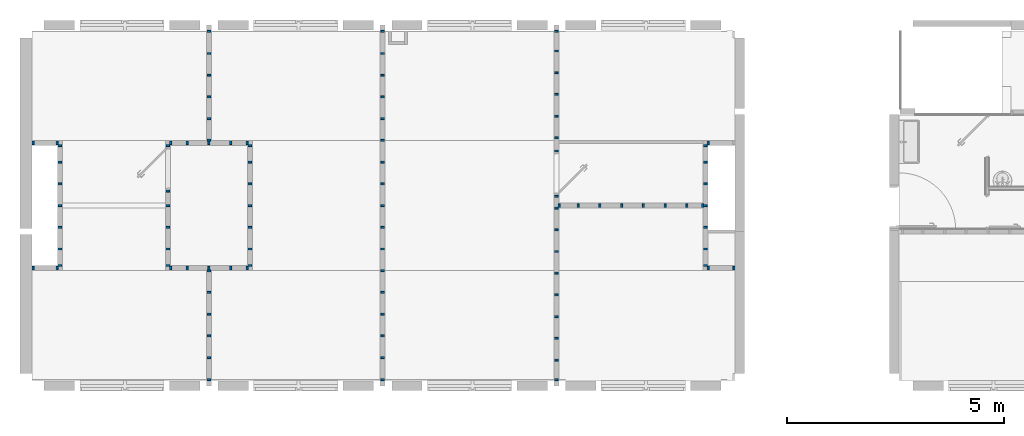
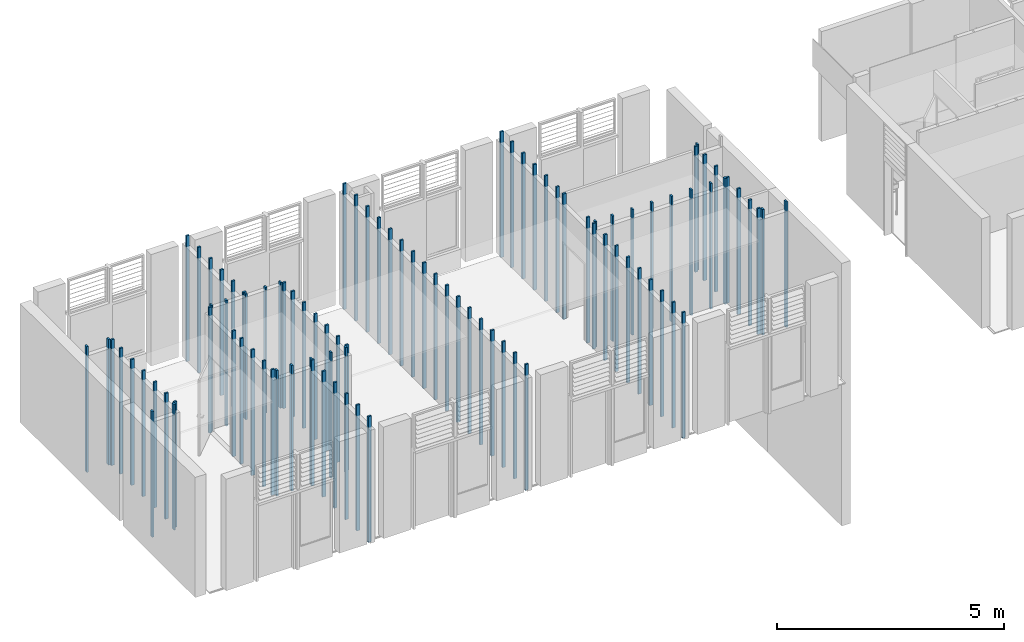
# One storey, part 1 of 20: 98 columns.
"""IFC2X3 building model written with IfcOpenShell, lengths in metres."""

from ifc_helpers import new_model, entity, si_unit, converted_unit, derived_unit, direction, frame, origin, origin_2d_with_axis, place, context, subcontext, project, spatial, rectangle, extrude, source, transform, mapped, material, type_object, type_shapes, element, save


model = new_model("IFC2X3")

# Units and contexts
model_context = context("Model", 3, precision=1e-05, world=origin(), true_north=direction((6.12303176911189e-17, 1.0)))
body_context = subcontext(model_context, "Body", "Model", "MODEL_VIEW")
ifc_project = project(units=[si_unit("LENGTHUNIT", "METRE"), si_unit("AREAUNIT", "SQUARE_METRE"), si_unit("VOLUMEUNIT", "CUBIC_METRE"), converted_unit("PLANEANGLEUNIT", "DEGREE", entity("IfcRatioMeasure", 0.0174532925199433), si_unit("PLANEANGLEUNIT", "RADIAN"), dimensions=[0, 0, 0, 0, 0, 0, 0]), si_unit("MASSUNIT", "GRAM", prefix="KILO"), derived_unit("MASSDENSITYUNIT", [(si_unit("MASSUNIT", "GRAM", prefix="KILO"), 1), (si_unit("LENGTHUNIT", "METRE"), -3)]), si_unit("TIMEUNIT", "SECOND"), si_unit("FREQUENCYUNIT", "HERTZ"), si_unit("THERMODYNAMICTEMPERATUREUNIT", "DEGREE_CELSIUS"), derived_unit("THERMALTRANSMITTANCEUNIT", [(si_unit("MASSUNIT", "GRAM", prefix="KILO"), 1), (si_unit("THERMODYNAMICTEMPERATUREUNIT", "KELVIN"), -1), (si_unit("TIMEUNIT", "SECOND"), -3)]), derived_unit("VOLUMETRICFLOWRATEUNIT", [(si_unit("LENGTHUNIT", "METRE"), 3), (si_unit("TIMEUNIT", "SECOND"), -1)]), si_unit("ELECTRICCURRENTUNIT", "AMPERE"), si_unit("ELECTRICVOLTAGEUNIT", "VOLT"), si_unit("POWERUNIT", "WATT"), si_unit("FORCEUNIT", "NEWTON", prefix="KILO"), si_unit("ILLUMINANCEUNIT", "LUX"), si_unit("LUMINOUSFLUXUNIT", "LUMEN"), si_unit("LUMINOUSINTENSITYUNIT", "CANDELA"), derived_unit("USERDEFINED", [(si_unit("MASSUNIT", "GRAM", prefix="KILO"), -1), (si_unit("LENGTHUNIT", "METRE"), -2), (si_unit("TIMEUNIT", "SECOND"), 3), (si_unit("LUMINOUSFLUXUNIT", "LUMEN"), 1)]), derived_unit("LINEARVELOCITYUNIT", [(si_unit("LENGTHUNIT", "METRE"), 1), (si_unit("TIMEUNIT", "SECOND"), -1)]), si_unit("PRESSUREUNIT", "PASCAL"), derived_unit("USERDEFINED", [(si_unit("LENGTHUNIT", "METRE"), -2), (si_unit("MASSUNIT", "GRAM", prefix="KILO"), 1), (si_unit("TIMEUNIT", "SECOND"), -2)])], contexts=[model_context])

# Site, building, storey
site_placement = place(None, origin())
site = spatial("IfcSite", under=ifc_project, at=site_placement, Name="Surface", CompositionType="ELEMENT")
building_placement = place(site_placement, origin())
building = spatial("IfcBuilding", under=site, at=building_placement, Name="ExPREF", CompositionType="ELEMENT")
storey_placement = place(building_placement, frame((0.0, 0.0, 4.27)))
storey = spatial("IfcBuildingStorey", under=building, at=storey_placement, Name="R+1", CompositionType="ELEMENT", Elevation=4.27)

# Columns
ifc_material_1 = material(Name="AA-bois poutres")
column_type_1 = type_object("IfcColumnType", Name="HEA160", PredefinedType="COLUMN")
shared_shape_1 = source(origin(), body_context, "Body", "SweptSolid", [
    extrude(rectangle(XDim=0.08, YDim=0.0449999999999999, at=origin_2d_with_axis()), frame((0.0, 0.0, 4.215), z_axis=(0.0, 0.0, 1.0), x_axis=(0.0, -1.0, 0.0)), (0.0, 0.0, 1.0), 3.385),
])
type_shapes(column_type_1, [shared_shape_1])
for number, where, z_axis, x_axis, name in (
    (1, (40.9197436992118, -189.20806962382, -4.27), (0.0, 0.0, 1.0), (0.0, 1.0, 0.0), "poteau bois 8x4.5 cm:HEA160"),
    (2, (40.9197436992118, -188.70806962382, -4.27), (0.0, 0.0, 1.0), (0.0, 1.0, 0.0), "poteau bois 8x4.5 cm:HEA160"),
    (3, (40.9197436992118, -188.20806962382, -4.27), (0.0, 0.0, 1.0), (0.0, 1.0, 0.0), "poteau bois 8x4.5 cm:HEA160"),
    (4, (40.9197436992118, -187.828569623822, -4.27), (0.0, 0.0, 1.0), (0.0, 1.0, 0.0), "poteau bois 8x4.5 cm:HEA160"),
):
    element("IfcColumn", number, at=place(storey_placement, frame(where, z_axis=z_axis, x_axis=x_axis)), inside=storey, type_object=column_type_1, material=ifc_material_1, Name=name, ObjectType="HEA160", context=body_context, shape_type="MappedRepresentation", body=[
        mapped(shared_shape_1, transform((0.0, 0.0, 0.0), scale=1.0)),
    ])
column_placement = place(storey_placement, frame((40.9822436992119, -187.766069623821, -4.27)))
element("IfcColumn", 5, at=column_placement, inside=storey, type_object=column_type_1, material=ifc_material_1, Name="poteau bois 8x4.5 cm:HEA160", ObjectType="HEA160", context=body_context, shape_type="MappedRepresentation", body=[
    mapped(shared_shape_1, transform((0.0, 0.0, 0.0), scale=1.0)),
])
for number, where, z_axis, x_axis, name in (
    (6, (26.0597436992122, -189.708069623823, -4.27), (0.0, 0.0, 1.0), (0.0, -1.0, 0.0), "poteau bois 8x4.5 cm:HEA160"),
    (7, (26.0597436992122, -190.208069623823, -4.27), (0.0, 0.0, 1.0), (0.0, -1.0, 0.0), "poteau bois 8x4.5 cm:HEA160"),
    (8, (26.0597436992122, -190.587569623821, -4.27), (0.0, 0.0, 1.0), (0.0, -1.0, 0.0), "poteau bois 8x4.5 cm:HEA160"),
    (9, (25.442243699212, -190.650069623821, -4.27), (0.0, 0.0, 1.0), (-1.0, 0.0, 0.0), "poteau bois 8x4.5 cm:HEA160"),
    (10, (25.9972436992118, -190.650069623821, -4.27), (0.0, 0.0, 1.0), (-1.0, 0.0, 0.0), "poteau bois 8x4.5 cm:HEA160"),
):
    element("IfcColumn", number, at=place(storey_placement, frame(where, z_axis=z_axis, x_axis=x_axis)), inside=storey, type_object=column_type_1, material=ifc_material_1, Name=name, ObjectType="HEA160", context=body_context, shape_type="MappedRepresentation", body=[
        mapped(shared_shape_1, transform((0.0, 0.0, 0.0), scale=1.0)),
    ])
column_type_2 = type_object("IfcColumnType", Name="HEA160", PredefinedType="COLUMN")
shared_shape_2 = source(origin(), body_context, "Body", "SweptSolid", [
    extrude(rectangle(XDim=0.08, YDim=0.0449999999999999, at=origin_2d_with_axis()), frame((0.0, 0.0, 4.215), z_axis=(0.0, 0.0, 1.0), x_axis=(0.0, -1.0, 0.0)), (0.0, 0.0, 1.0), 3.385),
])
type_shapes(column_type_2, [shared_shape_2])
for number, where, z_axis, x_axis, name in (
    (11, (40.9197436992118, -189.708069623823, -4.27), (0.0, 0.0, 1.0), (0.0, -1.0, 0.0), "poteau bois 8x4.5 cm:HEA160"),
    (12, (40.9197436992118, -190.208069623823, -4.27), (0.0, 0.0, 1.0), (0.0, -1.0, 0.0), "poteau bois 8x4.5 cm:HEA160"),
    (13, (40.9197436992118, -190.587569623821, -4.27), (0.0, 0.0, 1.0), (0.0, -1.0, 0.0), "poteau bois 8x4.5 cm:HEA160"),
):
    element("IfcColumn", number, at=place(storey_placement, frame(where, z_axis=z_axis, x_axis=x_axis)), inside=storey, type_object=column_type_2, material=ifc_material_1, Name=name, ObjectType="HEA160", context=body_context, shape_type="MappedRepresentation", body=[
        mapped(shared_shape_2, transform((0.0, 0.0, 0.0), scale=1.0)),
    ])
for number, where, name in (
    (14, (41.5772436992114, -190.650069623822, -4.27), "poteau bois 8x4.5 cm:HEA160"),
    (15, (40.9822436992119, -190.650069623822, -4.27), "poteau bois 8x4.5 cm:HEA160"),
):
    element("IfcColumn", number, at=place(storey_placement, frame(where)), inside=storey, type_object=column_type_2, material=ifc_material_1, Name=name, ObjectType="HEA160", context=body_context, shape_type="MappedRepresentation", body=[
        mapped(shared_shape_2, transform((0.0, 0.0, 0.0), scale=1.0)),
    ])
for number, where, z_axis, x_axis, name in (
    (16, (26.0597436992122, -189.20806962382, -4.27), (0.0, 0.0, 1.0), (0.0, 1.0, 0.0), "poteau bois 8x4.5 cm:HEA160"),
    (17, (26.0597436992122, -188.70806962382, -4.27), (0.0, 0.0, 1.0), (0.0, 1.0, 0.0), "poteau bois 8x4.5 cm:HEA160"),
    (18, (26.0597436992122, -188.20806962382, -4.27), (0.0, 0.0, 1.0), (0.0, 1.0, 0.0), "poteau bois 8x4.5 cm:HEA160"),
    (19, (26.0597436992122, -187.828569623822, -4.27), (0.0, 0.0, 1.0), (0.0, 1.0, 0.0), "poteau bois 8x4.5 cm:HEA160"),
    (20, (25.4422436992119, -187.766069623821, -4.27), (0.0, 0.0, 1.0), (-1.0, 0.0, 0.0), "poteau bois 8x4.5 cm:HEA160"),
    (21, (25.9972436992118, -187.766069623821, -4.27), (0.0, 0.0, 1.0), (-1.0, 0.0, 0.0), "poteau bois 8x4.5 cm:HEA160"),
):
    element("IfcColumn", number, at=place(storey_placement, frame(where, z_axis=z_axis, x_axis=x_axis)), inside=storey, type_object=column_type_2, material=ifc_material_1, Name=name, ObjectType="HEA160", context=body_context, shape_type="MappedRepresentation", body=[
        mapped(shared_shape_2, transform((0.0, 0.0, 0.0), scale=1.0)),
    ])
ifc_material_2 = material(Name="AA-bois tasseau cloison")
column_type_3 = type_object("IfcColumnType", Name="HEA160", PredefinedType="COLUMN")
shared_shape_3 = source(origin(), body_context, "Body", "SweptSolid", [
    extrude(rectangle(XDim=0.08, YDim=0.0449999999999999, at=origin_2d_with_axis()), frame((0.0, 0.0, 4.215), z_axis=(0.0, 0.0, 1.0), x_axis=(0.0, -1.0, 0.0)), (0.0, 0.0, 1.0), 3.385),
])
type_shapes(column_type_3, [shared_shape_3])
for number, where, z_axis, x_axis, name in (
    (22, (37.4897436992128, -185.19898794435, -4.27), (0.0, 0.0, 1.0), (0.0, -1.0, 0.0), "poteau bois 8x4.5 cm:HEA160"),
    (23, (37.4897436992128, -185.650569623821, -4.27), (0.0, 0.0, 1.0), (0.0, -1.0, 0.0), "poteau bois 8x4.5 cm:HEA160"),
    (24, (37.4897436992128, -186.150569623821, -4.27), (0.0, 0.0, 1.0), (0.0, -1.0, 0.0), "poteau bois 8x4.5 cm:HEA160"),
    (25, (37.4897436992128, -186.650569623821, -4.27), (0.0, 0.0, 1.0), (0.0, -1.0, 0.0), "poteau bois 8x4.5 cm:HEA160"),
    (26, (37.4897436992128, -187.150569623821, -4.27), (0.0, 0.0, 1.0), (0.0, -1.0, 0.0), "poteau bois 8x4.5 cm:HEA160"),
    (27, (37.4897436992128, -187.650569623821, -4.27), (0.0, 0.0, 1.0), (0.0, -1.0, 0.0), "poteau bois 8x4.5 cm:HEA160"),
    (28, (37.4897436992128, -187.952089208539, -4.27), (0.0, 0.0, 1.0), (0.0, -1.0, 0.0), "poteau bois 8x4.5 cm:HEA160"),
    (29, (33.4897436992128, -185.19898794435, -4.27), (0.0, 0.0, 1.0), (0.0, -1.0, 0.0), "poteau bois 8x4.5 cm:HEA160"),
    (30, (33.4897436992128, -185.708069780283, -4.27), (0.0, 0.0, 1.0), (0.0, -1.0, 0.0), "poteau bois 8x4.5 cm:HEA160"),
    (31, (33.4897436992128, -186.208069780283, -4.27), (0.0, 0.0, 1.0), (0.0, -1.0, 0.0), "poteau bois 8x4.5 cm:HEA160"),
    (32, (33.4897436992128, -186.708069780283, -4.27), (0.0, 0.0, 1.0), (0.0, -1.0, 0.0), "poteau bois 8x4.5 cm:HEA160"),
    (33, (33.4897436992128, -187.208069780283, -4.27), (0.0, 0.0, 1.0), (0.0, -1.0, 0.0), "poteau bois 8x4.5 cm:HEA160"),
    (34, (33.4897436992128, -187.708069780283, -4.27), (0.0, 0.0, 1.0), (0.0, -1.0, 0.0), "poteau bois 8x4.5 cm:HEA160"),
    (35, (33.4897436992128, -188.208069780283, -4.27), (0.0, 0.0, 1.0), (0.0, -1.0, 0.0), "poteau bois 8x4.5 cm:HEA160"),
    (36, (33.4897436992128, -188.708069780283, -4.27), (0.0, 0.0, 1.0), (0.0, -1.0, 0.0), "poteau bois 8x4.5 cm:HEA160"),
    (37, (33.4897436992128, -189.208069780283, -4.27), (0.0, 0.0, 1.0), (0.0, -1.0, 0.0), "poteau bois 8x4.5 cm:HEA160"),
    (38, (29.4897436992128, -185.19898794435, -4.27), (0.0, 0.0, 1.0), (0.0, -1.0, 0.0), "poteau bois 8x4.5 cm:HEA160"),
    (39, (29.4897436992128, -185.708069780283, -4.27), (0.0, 0.0, 1.0), (0.0, -1.0, 0.0), "poteau bois 8x4.5 cm:HEA160"),
    (40, (29.4897436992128, -186.208069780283, -4.27), (0.0, 0.0, 1.0), (0.0, -1.0, 0.0), "poteau bois 8x4.5 cm:HEA160"),
    (41, (29.4897436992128, -186.708069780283, -4.27), (0.0, 0.0, 1.0), (0.0, -1.0, 0.0), "poteau bois 8x4.5 cm:HEA160"),
    (42, (29.4897436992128, -187.208069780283, -4.27), (0.0, 0.0, 1.0), (0.0, -1.0, 0.0), "poteau bois 8x4.5 cm:HEA160"),
    (43, (29.4897436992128, -187.70356962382, -4.27), (0.0, 0.0, 1.0), (0.0, -1.0, 0.0), "poteau bois 8x4.5 cm:HEA160"),
    (44, (30.4317436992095, -188.208069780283, -4.27), (0.0, 0.0, 1.0), (0.0, -1.0, 0.0), "poteau bois 8x4.5 cm:HEA160"),
    (45, (30.4317436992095, -188.708069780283, -4.27), (0.0, 0.0, 1.0), (0.0, -1.0, 0.0), "poteau bois 8x4.5 cm:HEA160"),
    (46, (30.4317436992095, -189.208069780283, -4.27), (0.0, 0.0, 1.0), (0.0, -1.0, 0.0), "poteau bois 8x4.5 cm:HEA160"),
    (47, (28.6102436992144, -190.65006962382, -4.27), (0.0, 0.0, 1.0), (-1.0, 0.0, 0.0), "poteau bois 8x4.5 cm:HEA160"),
    (48, (28.9897436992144, -190.65006962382, -4.27), (0.0, 0.0, 1.0), (-1.0, 0.0, 0.0), "poteau bois 8x4.5 cm:HEA160"),
    (49, (28.5477436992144, -190.58756962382, -4.27), (0.0, 0.0, 1.0), (0.0, 1.0, 0.0), "poteau bois 8x4.5 cm:HEA160"),
    (50, (30.4317436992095, -187.828569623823, -4.27), (0.0, 0.0, 1.0), (0.0, -1.0, 0.0), "poteau bois 8x4.5 cm:HEA160"),
):
    element("IfcColumn", number, at=place(storey_placement, frame(where, z_axis=z_axis, x_axis=x_axis)), inside=storey, type_object=column_type_3, material=ifc_material_2, Name=name, ObjectType="HEA160", context=body_context, shape_type="MappedRepresentation", body=[
        mapped(shared_shape_3, transform((0.0, 0.0, 0.0), scale=1.0)),
    ])
for number, where, name in (
    (51, (30.3692436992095, -187.766069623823, -4.27), "poteau bois 8x4.5 cm:HEA160"),
    (52, (29.4897436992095, -187.766069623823, -4.27), "poteau bois 8x4.5 cm:HEA160"),
    (53, (29.9897436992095, -187.766069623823, -4.27), "poteau bois 8x4.5 cm:HEA160"),
):
    element("IfcColumn", number, at=place(storey_placement, frame(where)), inside=storey, type_object=column_type_3, material=ifc_material_2, Name=name, ObjectType="HEA160", context=body_context, shape_type="MappedRepresentation", body=[
        mapped(shared_shape_3, transform((0.0, 0.0, 0.0), scale=1.0)),
    ])
for number, where, z_axis, x_axis, name in (
    (54, (28.5477436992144, -190.20806946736, -4.27), (0.0, 0.0, 1.0), (0.0, 1.0, 0.0), "poteau bois 8x4.5 cm:HEA160"),
    (55, (28.5477436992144, -189.70806946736, -4.27), (0.0, 0.0, 1.0), (0.0, 1.0, 0.0), "poteau bois 8x4.5 cm:HEA160"),
):
    element("IfcColumn", number, at=place(storey_placement, frame(where, z_axis=z_axis, x_axis=x_axis)), inside=storey, type_object=column_type_3, material=ifc_material_2, Name=name, ObjectType="HEA160", context=body_context, shape_type="MappedRepresentation", body=[
        mapped(shared_shape_3, transform((0.0, 0.0, 0.0), scale=1.0)),
    ])
column_type_4 = type_object("IfcColumnType", Name="HEA160", PredefinedType="COLUMN")
shared_shape_4 = source(origin(), body_context, "Body", "SweptSolid", [
    extrude(rectangle(XDim=0.08, YDim=0.0449999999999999, at=origin_2d_with_axis()), frame((0.0, 0.0, 4.215), z_axis=(0.0, 0.0, 1.0), x_axis=(0.0, -1.0, 0.0)), (0.0, 0.0, 1.0), 3.385),
])
type_shapes(column_type_4, [shared_shape_4])
for number, where, z_axis, x_axis, name in (
    (56, (37.4897436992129, -193.217151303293, -4.27), (0.0, 0.0, 1.0), (0.0, 1.0, 0.0), "poteau bois 8x4.5 cm:HEA160"),
    (57, (37.4897436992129, -192.765569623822, -4.27), (0.0, 0.0, 1.0), (0.0, 1.0, 0.0), "poteau bois 8x4.5 cm:HEA160"),
    (58, (37.4897436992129, -192.265569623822, -4.27), (0.0, 0.0, 1.0), (0.0, 1.0, 0.0), "poteau bois 8x4.5 cm:HEA160"),
    (59, (37.4897436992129, -191.765569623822, -4.27), (0.0, 0.0, 1.0), (0.0, 1.0, 0.0), "poteau bois 8x4.5 cm:HEA160"),
    (60, (37.4897436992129, -191.265569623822, -4.27), (0.0, 0.0, 1.0), (0.0, 1.0, 0.0), "poteau bois 8x4.5 cm:HEA160"),
    (61, (37.4897436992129, -190.765569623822, -4.27), (0.0, 0.0, 1.0), (0.0, 1.0, 0.0), "poteau bois 8x4.5 cm:HEA160"),
    (62, (37.4897436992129, -190.265569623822, -4.27), (0.0, 0.0, 1.0), (0.0, 1.0, 0.0), "poteau bois 8x4.5 cm:HEA160"),
    (63, (37.4897436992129, -189.765569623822, -4.27), (0.0, 0.0, 1.0), (0.0, 1.0, 0.0), "poteau bois 8x4.5 cm:HEA160"),
    (64, (37.4897436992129, -189.265569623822, -4.27), (0.0, 0.0, 1.0), (0.0, 1.0, 0.0), "poteau bois 8x4.5 cm:HEA160"),
    (65, (37.4897436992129, -188.997089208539, -4.27), (0.0, 0.0, 1.0), (0.0, 1.0, 0.0), "poteau bois 8x4.5 cm:HEA160"),
    (66, (33.4897436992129, -193.217151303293, -4.27), (0.0, 0.0, 1.0), (0.0, 1.0, 0.0), "poteau bois 8x4.5 cm:HEA160"),
    (67, (33.4897436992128, -192.70806946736, -4.27), (0.0, 0.0, 1.0), (0.0, 1.0, 0.0), "poteau bois 8x4.5 cm:HEA160"),
    (68, (33.4897436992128, -192.20806946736, -4.27), (0.0, 0.0, 1.0), (0.0, 1.0, 0.0), "poteau bois 8x4.5 cm:HEA160"),
    (69, (33.4897436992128, -191.70806946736, -4.27), (0.0, 0.0, 1.0), (0.0, 1.0, 0.0), "poteau bois 8x4.5 cm:HEA160"),
    (70, (33.4897436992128, -191.20806946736, -4.27), (0.0, 0.0, 1.0), (0.0, 1.0, 0.0), "poteau bois 8x4.5 cm:HEA160"),
    (71, (33.4897436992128, -190.70806946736, -4.27), (0.0, 0.0, 1.0), (0.0, 1.0, 0.0), "poteau bois 8x4.5 cm:HEA160"),
    (72, (33.4897436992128, -190.20806946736, -4.27), (0.0, 0.0, 1.0), (0.0, 1.0, 0.0), "poteau bois 8x4.5 cm:HEA160"),
    (73, (33.4897436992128, -189.70806946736, -4.27), (0.0, 0.0, 1.0), (0.0, 1.0, 0.0), "poteau bois 8x4.5 cm:HEA160"),
    (74, (29.4897436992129, -193.217151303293, -4.27), (0.0, 0.0, 1.0), (0.0, 1.0, 0.0), "poteau bois 8x4.5 cm:HEA160"),
    (75, (29.4897436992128, -192.70806946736, -4.27), (0.0, 0.0, 1.0), (0.0, 1.0, 0.0), "poteau bois 8x4.5 cm:HEA160"),
    (76, (29.4897436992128, -192.20806946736, -4.27), (0.0, 0.0, 1.0), (0.0, 1.0, 0.0), "poteau bois 8x4.5 cm:HEA160"),
    (77, (29.4897436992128, -191.70806946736, -4.27), (0.0, 0.0, 1.0), (0.0, 1.0, 0.0), "poteau bois 8x4.5 cm:HEA160"),
    (78, (29.4897436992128, -191.20806946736, -4.27), (0.0, 0.0, 1.0), (0.0, 1.0, 0.0), "poteau bois 8x4.5 cm:HEA160"),
    (79, (29.4897436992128, -190.71256962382, -4.27), (0.0, 0.0, 1.0), (0.0, 1.0, 0.0), "poteau bois 8x4.5 cm:HEA160"),
    (80, (30.4317436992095, -190.20806946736, -4.27), (0.0, 0.0, 1.0), (0.0, 1.0, 0.0), "poteau bois 8x4.5 cm:HEA160"),
    (81, (30.4317436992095, -189.70806946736, -4.27), (0.0, 0.0, 1.0), (0.0, 1.0, 0.0), "poteau bois 8x4.5 cm:HEA160"),
    (82, (37.5522436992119, -189.20806962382, -4.27), (0.0, 0.0, 1.0), (-1.0, 0.0, 0.0), "poteau bois 8x4.5 cm:HEA160"),
    (83, (37.9922436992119, -189.20806962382, -4.27), (0.0, 0.0, 1.0), (-1.0, 0.0, 0.0), "poteau bois 8x4.5 cm:HEA160"),
    (84, (38.4922436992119, -189.20806962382, -4.27), (0.0, 0.0, 1.0), (-1.0, 0.0, 0.0), "poteau bois 8x4.5 cm:HEA160"),
    (85, (38.9922436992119, -189.20806962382, -4.27), (0.0, 0.0, 1.0), (-1.0, 0.0, 0.0), "poteau bois 8x4.5 cm:HEA160"),
    (86, (39.4922436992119, -189.20806962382, -4.27), (0.0, 0.0, 1.0), (-1.0, 0.0, 0.0), "poteau bois 8x4.5 cm:HEA160"),
    (87, (39.9922436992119, -189.20806962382, -4.27), (0.0, 0.0, 1.0), (-1.0, 0.0, 0.0), "poteau bois 8x4.5 cm:HEA160"),
    (88, (40.4922436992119, -189.20806962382, -4.27), (0.0, 0.0, 1.0), (-1.0, 0.0, 0.0), "poteau bois 8x4.5 cm:HEA160"),
    (89, (40.8572436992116, -189.20806962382, -4.27), (0.0, 0.0, 1.0), (-1.0, 0.0, 0.0), "poteau bois 8x4.5 cm:HEA160"),
    (90, (30.4317436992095, -190.58756962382, -4.27), (0.0, 0.0, 1.0), (0.0, 1.0, 0.0), "poteau bois 8x4.5 cm:HEA160"),
):
    element("IfcColumn", number, at=place(storey_placement, frame(where, z_axis=z_axis, x_axis=x_axis)), inside=storey, type_object=column_type_4, material=ifc_material_2, Name=name, ObjectType="HEA160", context=body_context, shape_type="MappedRepresentation", body=[
        mapped(shared_shape_4, transform((0.0, 0.0, 0.0), scale=1.0)),
    ])
for number, where, name in (
    (91, (30.3692436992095, -190.65006962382, -4.27), "poteau bois 8x4.5 cm:HEA160"),
    (92, (29.4897436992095, -190.65006962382, -4.27), "poteau bois 8x4.5 cm:HEA160"),
    (93, (29.9897436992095, -190.65006962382, -4.27), "poteau bois 8x4.5 cm:HEA160"),
):
    element("IfcColumn", number, at=place(storey_placement, frame(where)), inside=storey, type_object=column_type_4, material=ifc_material_2, Name=name, ObjectType="HEA160", context=body_context, shape_type="MappedRepresentation", body=[
        mapped(shared_shape_4, transform((0.0, 0.0, 0.0), scale=1.0)),
    ])
for number, where, z_axis, x_axis, name in (
    (94, (28.6102436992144, -187.766069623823, -4.27), (0.0, 0.0, 1.0), (-1.0, 0.0, 0.0), "poteau bois 8x4.5 cm:HEA160"),
    (95, (28.9897436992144, -187.766069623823, -4.27), (0.0, 0.0, 1.0), (-1.0, 0.0, 0.0), "poteau bois 8x4.5 cm:HEA160"),
    (96, (28.5477436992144, -187.828569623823, -4.27), (0.0, 0.0, 1.0), (0.0, -1.0, 0.0), "poteau bois 8x4.5 cm:HEA160"),
    (97, (28.5477436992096, -188.873569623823, -4.27), (0.0, 0.0, 1.0), (0.0, -1.0, 0.0), "poteau bois 8x4.5 cm:HEA160"),
    (98, (28.5477436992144, -189.208069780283, -4.27), (0.0, 0.0, 1.0), (0.0, -1.0, 0.0), "poteau bois 8x4.5 cm:HEA160"),
):
    element("IfcColumn", number, at=place(storey_placement, frame(where, z_axis=z_axis, x_axis=x_axis)), inside=storey, type_object=column_type_4, material=ifc_material_2, Name=name, ObjectType="HEA160", context=body_context, shape_type="MappedRepresentation", body=[
        mapped(shared_shape_4, transform((0.0, 0.0, 0.0), scale=1.0)),
    ])

save(model, "model.ifc")
